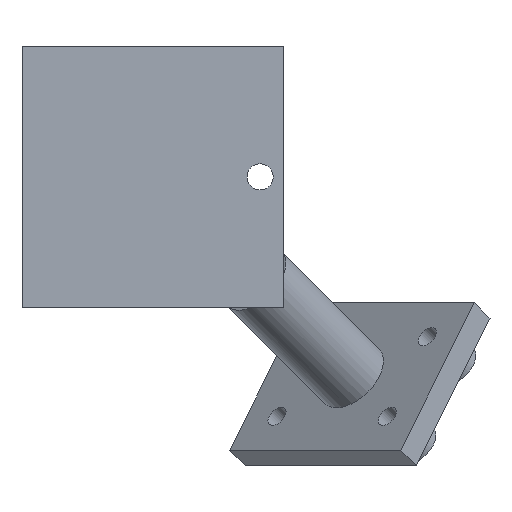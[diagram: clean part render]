
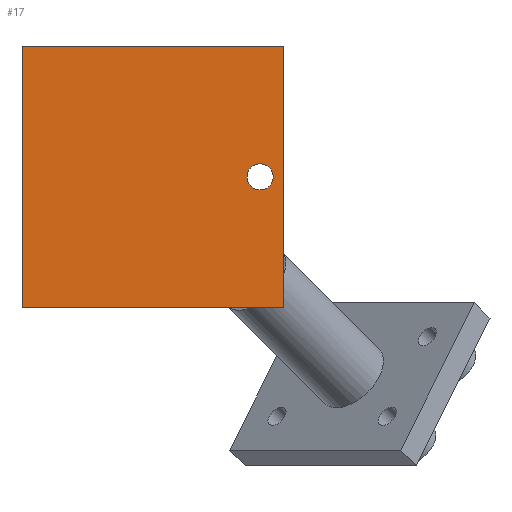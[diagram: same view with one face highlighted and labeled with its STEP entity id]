
A CAD part, left-side view. The second image highlights one B-rep face of the part: STEP entity #17.
In plain terms, the highlighted planar face has unit normal (-1, 0, 0).
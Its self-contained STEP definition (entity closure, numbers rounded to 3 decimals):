
#17 = ADVANCED_FACE('',(#18,#137),#32,.F.);
#18 = FACE_BOUND('',#19,.F.);
#19 = EDGE_LOOP('',(#20,#55,#83,#111));
#20 = ORIENTED_EDGE('',*,*,#21,.F.);
#21 = EDGE_CURVE('',#22,#24,#26,.T.);
#22 = VERTEX_POINT('',#23);
#23 = CARTESIAN_POINT('',(-107.,73.,73.));
#24 = VERTEX_POINT('',#25);
#25 = CARTESIAN_POINT('',(-107.,73.,107.));
#26 = SURFACE_CURVE('',#27,(#31,#43),.PCURVE_S1.);
#27 = LINE('',#28,#29);
#28 = CARTESIAN_POINT('',(-107.,73.,73.));
#29 = VECTOR('',#30,1.);
#30 = DIRECTION('',(0.,0.,1.));
#31 = PCURVE('',#32,#37);
#32 = PLANE('',#33);
#33 = AXIS2_PLACEMENT_3D('',#34,#35,#36);
#34 = CARTESIAN_POINT('',(-107.,73.,73.));
#35 = DIRECTION('',(1.,0.,0.));
#36 = DIRECTION('',(0.,0.,1.));
#37 = DEFINITIONAL_REPRESENTATION('',(#38),#42);
#38 = LINE('',#39,#40);
#39 = CARTESIAN_POINT('',(0.,0.));
#40 = VECTOR('',#41,1.);
#41 = DIRECTION('',(1.,0.));
#42 = ( GEOMETRIC_REPRESENTATION_CONTEXT(2) 
PARAMETRIC_REPRESENTATION_CONTEXT() REPRESENTATION_CONTEXT('2D SPACE',''
  ) );
#43 = PCURVE('',#44,#49);
#44 = PLANE('',#45);
#45 = AXIS2_PLACEMENT_3D('',#46,#47,#48);
#46 = CARTESIAN_POINT('',(-107.,73.,73.));
#47 = DIRECTION('',(0.,1.,0.));
#48 = DIRECTION('',(0.,0.,1.));
#49 = DEFINITIONAL_REPRESENTATION('',(#50),#54);
#50 = LINE('',#51,#52);
#51 = CARTESIAN_POINT('',(0.,0.));
#52 = VECTOR('',#53,1.);
#53 = DIRECTION('',(1.,0.));
#54 = ( GEOMETRIC_REPRESENTATION_CONTEXT(2) 
PARAMETRIC_REPRESENTATION_CONTEXT() REPRESENTATION_CONTEXT('2D SPACE',''
  ) );
#55 = ORIENTED_EDGE('',*,*,#56,.T.);
#56 = EDGE_CURVE('',#22,#57,#59,.T.);
#57 = VERTEX_POINT('',#58);
#58 = CARTESIAN_POINT('',(-107.,107.,73.));
#59 = SURFACE_CURVE('',#60,(#64,#71),.PCURVE_S1.);
#60 = LINE('',#61,#62);
#61 = CARTESIAN_POINT('',(-107.,73.,73.));
#62 = VECTOR('',#63,1.);
#63 = DIRECTION('',(0.,1.,0.));
#64 = PCURVE('',#32,#65);
#65 = DEFINITIONAL_REPRESENTATION('',(#66),#70);
#66 = LINE('',#67,#68);
#67 = CARTESIAN_POINT('',(0.,0.));
#68 = VECTOR('',#69,1.);
#69 = DIRECTION('',(0.,-1.));
#70 = ( GEOMETRIC_REPRESENTATION_CONTEXT(2) 
PARAMETRIC_REPRESENTATION_CONTEXT() REPRESENTATION_CONTEXT('2D SPACE',''
  ) );
#71 = PCURVE('',#72,#77);
#72 = PLANE('',#73);
#73 = AXIS2_PLACEMENT_3D('',#74,#75,#76);
#74 = CARTESIAN_POINT('',(-107.,73.,73.));
#75 = DIRECTION('',(0.,0.,1.));
#76 = DIRECTION('',(1.,0.,0.));
#77 = DEFINITIONAL_REPRESENTATION('',(#78),#82);
#78 = LINE('',#79,#80);
#79 = CARTESIAN_POINT('',(0.,0.));
#80 = VECTOR('',#81,1.);
#81 = DIRECTION('',(0.,1.));
#82 = ( GEOMETRIC_REPRESENTATION_CONTEXT(2) 
PARAMETRIC_REPRESENTATION_CONTEXT() REPRESENTATION_CONTEXT('2D SPACE',''
  ) );
#83 = ORIENTED_EDGE('',*,*,#84,.T.);
#84 = EDGE_CURVE('',#57,#85,#87,.T.);
#85 = VERTEX_POINT('',#86);
#86 = CARTESIAN_POINT('',(-107.,107.,107.));
#87 = SURFACE_CURVE('',#88,(#92,#99),.PCURVE_S1.);
#88 = LINE('',#89,#90);
#89 = CARTESIAN_POINT('',(-107.,107.,73.));
#90 = VECTOR('',#91,1.);
#91 = DIRECTION('',(0.,0.,1.));
#92 = PCURVE('',#32,#93);
#93 = DEFINITIONAL_REPRESENTATION('',(#94),#98);
#94 = LINE('',#95,#96);
#95 = CARTESIAN_POINT('',(0.,-34.));
#96 = VECTOR('',#97,1.);
#97 = DIRECTION('',(1.,0.));
#98 = ( GEOMETRIC_REPRESENTATION_CONTEXT(2) 
PARAMETRIC_REPRESENTATION_CONTEXT() REPRESENTATION_CONTEXT('2D SPACE',''
  ) );
#99 = PCURVE('',#100,#105);
#100 = PLANE('',#101);
#101 = AXIS2_PLACEMENT_3D('',#102,#103,#104);
#102 = CARTESIAN_POINT('',(-107.,107.,73.));
#103 = DIRECTION('',(0.,1.,0.));
#104 = DIRECTION('',(0.,0.,1.));
#105 = DEFINITIONAL_REPRESENTATION('',(#106),#110);
#106 = LINE('',#107,#108);
#107 = CARTESIAN_POINT('',(0.,0.));
#108 = VECTOR('',#109,1.);
#109 = DIRECTION('',(1.,0.));
#110 = ( GEOMETRIC_REPRESENTATION_CONTEXT(2) 
PARAMETRIC_REPRESENTATION_CONTEXT() REPRESENTATION_CONTEXT('2D SPACE',''
  ) );
#111 = ORIENTED_EDGE('',*,*,#112,.F.);
#112 = EDGE_CURVE('',#24,#85,#113,.T.);
#113 = SURFACE_CURVE('',#114,(#118,#125),.PCURVE_S1.);
#114 = LINE('',#115,#116);
#115 = CARTESIAN_POINT('',(-107.,73.,107.));
#116 = VECTOR('',#117,1.);
#117 = DIRECTION('',(0.,1.,0.));
#118 = PCURVE('',#32,#119);
#119 = DEFINITIONAL_REPRESENTATION('',(#120),#124);
#120 = LINE('',#121,#122);
#121 = CARTESIAN_POINT('',(34.,0.));
#122 = VECTOR('',#123,1.);
#123 = DIRECTION('',(0.,-1.));
#124 = ( GEOMETRIC_REPRESENTATION_CONTEXT(2) 
PARAMETRIC_REPRESENTATION_CONTEXT() REPRESENTATION_CONTEXT('2D SPACE',''
  ) );
#125 = PCURVE('',#126,#131);
#126 = PLANE('',#127);
#127 = AXIS2_PLACEMENT_3D('',#128,#129,#130);
#128 = CARTESIAN_POINT('',(-107.,73.,107.));
#129 = DIRECTION('',(0.,0.,1.));
#130 = DIRECTION('',(1.,0.,0.));
#131 = DEFINITIONAL_REPRESENTATION('',(#132),#136);
#132 = LINE('',#133,#134);
#133 = CARTESIAN_POINT('',(0.,0.));
#134 = VECTOR('',#135,1.);
#135 = DIRECTION('',(0.,1.));
#136 = ( GEOMETRIC_REPRESENTATION_CONTEXT(2) 
PARAMETRIC_REPRESENTATION_CONTEXT() REPRESENTATION_CONTEXT('2D SPACE',''
  ) );
#137 = FACE_BOUND('',#138,.F.);
#138 = EDGE_LOOP('',(#139));
#139 = ORIENTED_EDGE('',*,*,#140,.F.);
#140 = EDGE_CURVE('',#141,#141,#143,.T.);
#141 = VERTEX_POINT('',#142);
#142 = CARTESIAN_POINT('',(-107.,76.,91.7));
#143 = SURFACE_CURVE('',#144,(#149,#156),.PCURVE_S1.);
#144 = CIRCLE('',#145,1.7);
#145 = AXIS2_PLACEMENT_3D('',#146,#147,#148);
#146 = CARTESIAN_POINT('',(-107.,76.,90.));
#147 = DIRECTION('',(1.,0.,0.));
#148 = DIRECTION('',(-0.,0.,1.));
#149 = PCURVE('',#32,#150);
#150 = DEFINITIONAL_REPRESENTATION('',(#151),#155);
#151 = CIRCLE('',#152,1.7);
#152 = AXIS2_PLACEMENT_2D('',#153,#154);
#153 = CARTESIAN_POINT('',(17.,-3.));
#154 = DIRECTION('',(1.,0.));
#155 = ( GEOMETRIC_REPRESENTATION_CONTEXT(2) 
PARAMETRIC_REPRESENTATION_CONTEXT() REPRESENTATION_CONTEXT('2D SPACE',''
  ) );
#156 = PCURVE('',#157,#162);
#157 = CYLINDRICAL_SURFACE('',#158,1.7);
#158 = AXIS2_PLACEMENT_3D('',#159,#160,#161);
#159 = CARTESIAN_POINT('',(-110.,76.,90.));
#160 = DIRECTION('',(1.,0.,0.));
#161 = DIRECTION('',(-0.,0.,1.));
#162 = DEFINITIONAL_REPRESENTATION('',(#163),#167);
#163 = LINE('',#164,#165);
#164 = CARTESIAN_POINT('',(0.,3.));
#165 = VECTOR('',#166,1.);
#166 = DIRECTION('',(1.,0.));
#167 = ( GEOMETRIC_REPRESENTATION_CONTEXT(2) 
PARAMETRIC_REPRESENTATION_CONTEXT() REPRESENTATION_CONTEXT('2D SPACE',''
  ) );
